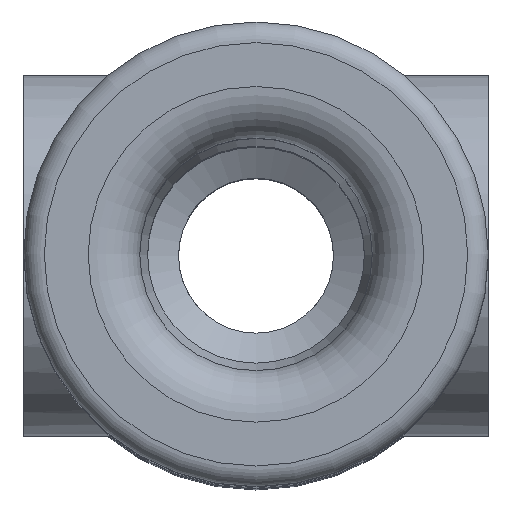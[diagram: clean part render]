
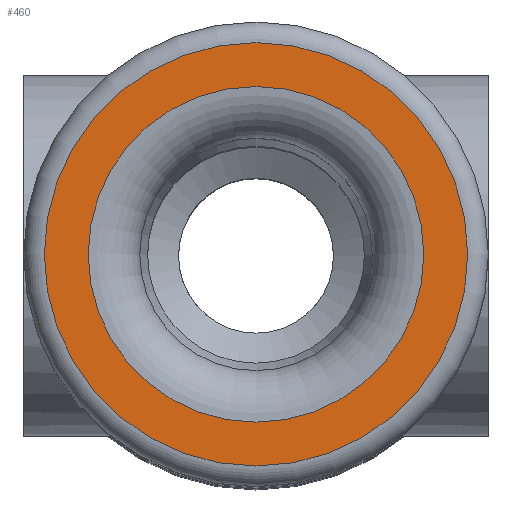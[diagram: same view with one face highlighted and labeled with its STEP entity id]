
A CAD part, top view. The second image highlights one B-rep face of the part: STEP entity #460.
In plain terms, the highlighted planar face has unit normal (0, 0, 1).
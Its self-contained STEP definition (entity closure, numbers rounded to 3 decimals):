
#460=ADVANCED_FACE('', (#470,#480), #490, .T.);
#3540=AXIS2_PLACEMENT_3D('Ax2Pl3d', #3550, #3560, #3570);
#3580=AXIS2_PLACEMENT_3D('Ax2Pl3d', #3590, #3600, #3610);
#3620=AXIS2_PLACEMENT_3D('Ax2Pl3d', #3630, #3640, #3650);
#3550=CARTESIAN_POINT('HicPkt', (8.452,9.254,
39.787));
#36250=CARTESIAN_POINT('', (12.552,9.254,39.787));
#3590=CARTESIAN_POINT('HicPkt', (12.552,9.254,
39.787));
#3630=CARTESIAN_POINT('HicPkt', (8.452,9.254,
39.787));
#36260=CARTESIAN_POINT('', (11.702,9.254,39.787));
#36930=CIRCLE('Circle', #3540, 4.1);
#36940=CIRCLE('Circle', #3620, 3.25);
#3560=DIRECTION('Axis', (0.,0.,1.));
#3570=DIRECTION('RefDirection', (1.,0.,-0.));
#3600=DIRECTION('Axis', (0.,0.,1.));
#3610=DIRECTION('RefDirection', (1.,0.,-0.));
#3640=DIRECTION('Axis', (0.,0.,1.));
#3650=DIRECTION('RefDirection', (1.,0.,-0.));
#39720=EDGE_CURVE('', #39730, #39730, #36930, .T.);
#39740=EDGE_CURVE('', #39750, #39750, #36940, .T.);
#41280=EDGE_LOOP('Edge_loop', (#41290));
#41300=EDGE_LOOP('Edge_loop', (#41310));
#480=FACE_BOUND('', #41300, .T.);
#470=FACE_OUTER_BOUND('Face_outer_bound', #41280, .T.);
#41290=ORIENTED_EDGE('', *, *, #39720, .T.);
#41310=ORIENTED_EDGE('', *, *, #39740, .F.);
#490=PLANE('Plane', #3580);
#39730=VERTEX_POINT('', #36250);
#39750=VERTEX_POINT('', #36260);
